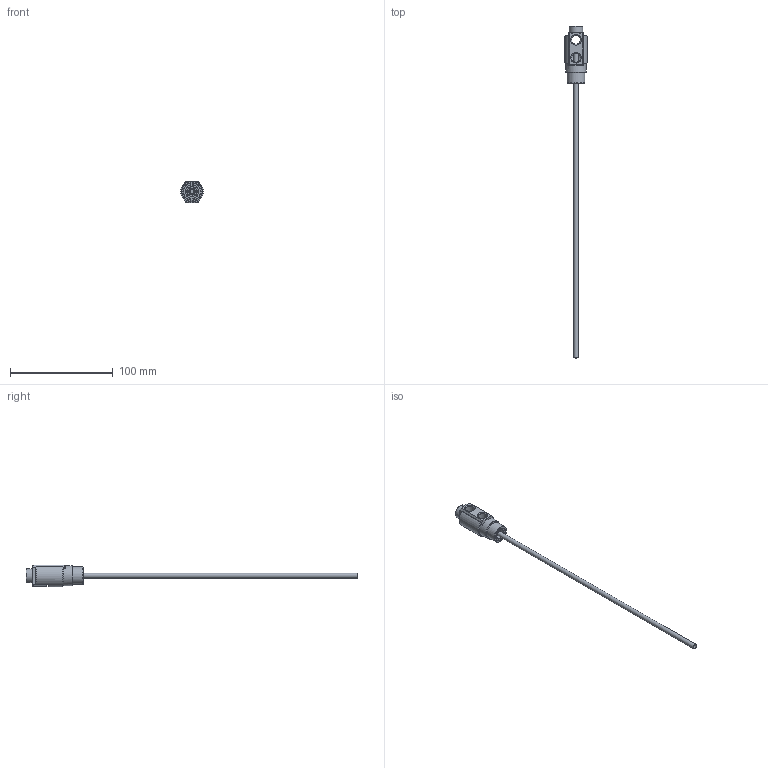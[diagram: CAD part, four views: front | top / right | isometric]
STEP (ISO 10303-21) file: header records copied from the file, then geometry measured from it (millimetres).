
FILE_DESCRIPTION(/* description */ (''),/* implementation_level */ '2;1');
FILE_NAME(/* name */ 'C:/Users/drich/Desktop/SC186N-RL v1.step',/* time_stamp */ '2020-01-15T19:45:06-06:00',/* author */ (''),/* organization */ (''),/* preprocessor_version */ 'ST-DEVELOPER v18',/* originating_system */ 'Autodesk Translation Framework v8.12.0.6',/* authorisation */ '');
FILE_SCHEMA (('AUTOMOTIVE_DESIGN { 1 0 10303 214 3 1 1 }'));
Length unit declared in the file: inch
Products named in the file (6): SC186N-RL; SC186H-RL HEAD; BLACK SEAL; SC186H Sleeve; PT16-187-12; BF-18
Assembly tree (5 placements, depth 3):
  SC186N-RL
    SC186H-RL HEAD
      BLACK SEAL
      SC186H Sleeve
    PT16-187-12
    BF-18
Bounding box: 22.2 x 323.52 x 21.41 mm (x, y, z)
Volume: 13727.4 mm3; surface area: 18916.1 mm2
Topology: 5 solids, 5 shells, 118 faces, 326 edges, 224 vertices
Faces by surface type: plane 60, cylinder 27, cone 21, torus 10
Full cylindrical faces by diameter (mm): 3.962 x1, 4.242 x1, 4.724 x1, 5.969 x1, 6.697 x1, 6.706 x1, 6.731 x2, 7.616 x1, 8.707 x4, 9.398 x1, 9.5 x1, 9.621 x1, 12.7 x1, 12.954 x1, 13.462 x1, 15.165 x1, 17.018 x1, 19.558 x1
Entity records: 4173 total; most frequent: CARTESIAN_POINT 906, DIRECTION 690, ORIENTED_EDGE 650, EDGE_CURVE 325, AXIS2_PLACEMENT_3D 280, VERTEX_POINT 224, CIRCLE 145, EDGE_LOOP 139
